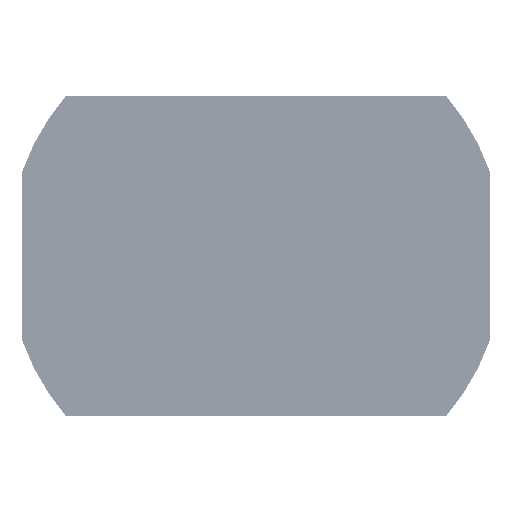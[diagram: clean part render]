
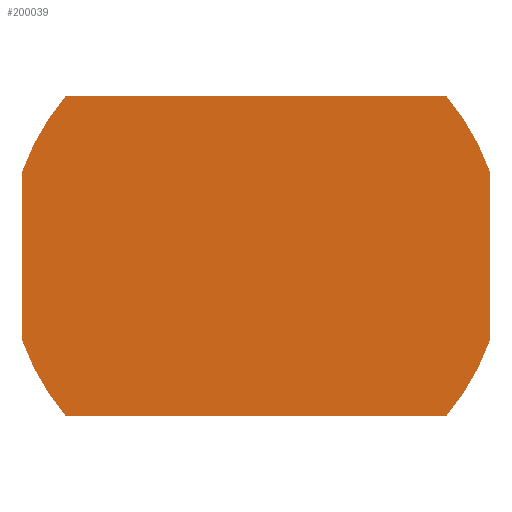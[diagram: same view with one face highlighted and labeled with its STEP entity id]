
A CAD part, top view. The second image highlights one B-rep face of the part: STEP entity #200039.
In plain terms, the highlighted planar face has unit normal (0, 0, 1).
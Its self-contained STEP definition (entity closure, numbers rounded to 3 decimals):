
#199705=CARTESIAN_POINT('Vertex',(0.,50.203,217.76)) ;
#199709=CARTESIAN_POINT('Control Point',(59.55,50.203,217.76)) ;
#199710=CARTESIAN_POINT('Control Point',(47.64,50.203,217.76)) ;
#199711=CARTESIAN_POINT('Control Point',(35.73,50.203,217.76)) ;
#199712=CARTESIAN_POINT('Control Point',(23.82,50.203,217.76)) ;
#199713=CARTESIAN_POINT('Control Point',(11.91,50.203,217.76)) ;
#199714=CARTESIAN_POINT('Control Point',(0.,50.203,217.76)) ;
#199715=CARTESIAN_POINT('Vertex',(59.55,50.203,217.76)) ;
#199945=CARTESIAN_POINT('Axis2P3D Location',(28.259,16.719,217.76)) ;
#199950=CARTESIAN_POINT('Axis2P3D Location',(0.,0.,217.76)) ;
#199954=CARTESIAN_POINT('Vertex',(73.283,26.386,217.76)) ;
#199957=CARTESIAN_POINT('Line Origine',(-29.775,50.203,217.76)) ;
#199961=CARTESIAN_POINT('Vertex',(-59.55,50.203,217.76)) ;
#199964=CARTESIAN_POINT('Axis2P3D Location',(0.,0.,217.76)) ;
#199968=CARTESIAN_POINT('Vertex',(-73.283,26.386,217.76)) ;
#199971=CARTESIAN_POINT('Line Origine',(-73.283,13.193,217.76)) ;
#199975=CARTESIAN_POINT('Vertex',(-73.283,0.,217.76)) ;
#199978=CARTESIAN_POINT('Line Origine',(-73.283,-13.193,217.76)) ;
#199982=CARTESIAN_POINT('Vertex',(-73.283,-26.386,217.76)) ;
#199985=CARTESIAN_POINT('Axis2P3D Location',(0.,0.,217.76)) ;
#199989=CARTESIAN_POINT('Vertex',(-59.55,-50.203,217.76)) ;
#199992=CARTESIAN_POINT('Line Origine',(-29.775,-50.203,217.76)) ;
#199996=CARTESIAN_POINT('Vertex',(0.,-50.203,217.76)) ;
#199999=CARTESIAN_POINT('Line Origine',(29.775,-50.203,217.76)) ;
#200003=CARTESIAN_POINT('Vertex',(59.55,-50.203,217.76)) ;
#200006=CARTESIAN_POINT('Axis2P3D Location',(0.,0.,217.76)) ;
#200010=CARTESIAN_POINT('Vertex',(73.283,-26.386,217.76)) ;
#200013=CARTESIAN_POINT('Line Origine',(73.283,-13.193,217.76)) ;
#200017=CARTESIAN_POINT('Vertex',(73.283,0.,217.76)) ;
#200020=CARTESIAN_POINT('Line Origine',(73.283,13.193,217.76)) ;
#199946=DIRECTION('Axis2P3D Direction',(0.,-0.,-1.)) ;
#199947=DIRECTION('Axis2P3D XDirection',(0.988,-0.153,0.)) ;
#199951=DIRECTION('Axis2P3D Direction',(0.,-0.,-1.)) ;
#199958=DIRECTION('Vector Direction',(-1.,0.,0.)) ;
#199965=DIRECTION('Axis2P3D Direction',(0.,-0.,-1.)) ;
#199972=DIRECTION('Vector Direction',(0.,1.,0.)) ;
#199979=DIRECTION('Vector Direction',(0.,1.,0.)) ;
#199986=DIRECTION('Axis2P3D Direction',(0.,-0.,-1.)) ;
#199993=DIRECTION('Vector Direction',(-1.,0.,0.)) ;
#200000=DIRECTION('Vector Direction',(-1.,0.,0.)) ;
#200007=DIRECTION('Axis2P3D Direction',(0.,-0.,-1.)) ;
#200014=DIRECTION('Vector Direction',(0.,1.,0.)) ;
#200021=DIRECTION('Vector Direction',(0.,1.,0.)) ;
#199948=AXIS2_PLACEMENT_3D('Plane Axis2P3D',#199945,#199946,#199947) ;
#199952=AXIS2_PLACEMENT_3D('Circle Axis2P3D',#199950,#199951,$) ;
#199966=AXIS2_PLACEMENT_3D('Circle Axis2P3D',#199964,#199965,$) ;
#199987=AXIS2_PLACEMENT_3D('Circle Axis2P3D',#199985,#199986,$) ;
#200008=AXIS2_PLACEMENT_3D('Circle Axis2P3D',#200006,#200007,$) ;
#200026=ORIENTED_EDGE('',*,*,#199956,.F.) ;
#200027=ORIENTED_EDGE('',*,*,#199717,.T.) ;
#200028=ORIENTED_EDGE('',*,*,#199963,.F.) ;
#200029=ORIENTED_EDGE('',*,*,#199970,.F.) ;
#200030=ORIENTED_EDGE('',*,*,#199977,.F.) ;
#200031=ORIENTED_EDGE('',*,*,#199984,.T.) ;
#200032=ORIENTED_EDGE('',*,*,#199991,.F.) ;
#200033=ORIENTED_EDGE('',*,*,#199998,.T.) ;
#200034=ORIENTED_EDGE('',*,*,#200005,.F.) ;
#200035=ORIENTED_EDGE('',*,*,#200012,.F.) ;
#200036=ORIENTED_EDGE('',*,*,#200019,.F.) ;
#200037=ORIENTED_EDGE('',*,*,#200024,.T.) ;
#199959=VECTOR('Line Direction',#199958,1.) ;
#199973=VECTOR('Line Direction',#199972,1.) ;
#199980=VECTOR('Line Direction',#199979,1.) ;
#199994=VECTOR('Line Direction',#199993,1.) ;
#200001=VECTOR('Line Direction',#200000,1.) ;
#200015=VECTOR('Line Direction',#200014,1.) ;
#200022=VECTOR('Line Direction',#200021,1.) ;
#200039=ADVANCED_FACE('\X2\51497DDA30C730FC30BF\X0\',(#200038),#199949,.F.) ;
#199708=B_SPLINE_CURVE_WITH_KNOTS('',5,(#199709,#199710,#199711,#199712,#199713,#199714),.UNSPECIFIED.,.F.,.U.,(6,6),(17.892,34.558),.UNSPECIFIED.) ;
#199953=CIRCLE('generated circle',#199952,77.888) ;
#199967=CIRCLE('generated circle',#199966,77.888) ;
#199988=CIRCLE('generated circle',#199987,77.888) ;
#200009=CIRCLE('generated circle',#200008,77.888) ;
#199717=EDGE_CURVE('',#199716,#199706,#199708,.T.) ;
#199956=EDGE_CURVE('',#199716,#199955,#199953,.T.) ;
#199963=EDGE_CURVE('',#199962,#199706,#199960,.F.) ;
#199970=EDGE_CURVE('',#199969,#199962,#199967,.T.) ;
#199977=EDGE_CURVE('',#199976,#199969,#199974,.T.) ;
#199984=EDGE_CURVE('',#199976,#199983,#199981,.F.) ;
#199991=EDGE_CURVE('',#199990,#199983,#199988,.T.) ;
#199998=EDGE_CURVE('',#199990,#199997,#199995,.F.) ;
#200005=EDGE_CURVE('',#200004,#199997,#200002,.T.) ;
#200012=EDGE_CURVE('',#200011,#200004,#200009,.T.) ;
#200019=EDGE_CURVE('',#200018,#200011,#200016,.F.) ;
#200024=EDGE_CURVE('',#200018,#199955,#200023,.T.) ;
#200025=EDGE_LOOP('',(#200026,#200027,#200028,#200029,#200030,#200031,#200032,#200033,#200034,#200035,#200036,#200037)) ;
#200038=FACE_OUTER_BOUND('',#200025,.T.) ;
#199960=LINE('Line',#199957,#199959) ;
#199974=LINE('Line',#199971,#199973) ;
#199981=LINE('Line',#199978,#199980) ;
#199995=LINE('Line',#199992,#199994) ;
#200002=LINE('Line',#199999,#200001) ;
#200016=LINE('Line',#200013,#200015) ;
#200023=LINE('Line',#200020,#200022) ;
#199949=PLANE('',#199948) ;
#199706=VERTEX_POINT('',#199705) ;
#199716=VERTEX_POINT('',#199715) ;
#199955=VERTEX_POINT('',#199954) ;
#199962=VERTEX_POINT('',#199961) ;
#199969=VERTEX_POINT('',#199968) ;
#199976=VERTEX_POINT('',#199975) ;
#199983=VERTEX_POINT('',#199982) ;
#199990=VERTEX_POINT('',#199989) ;
#199997=VERTEX_POINT('',#199996) ;
#200004=VERTEX_POINT('',#200003) ;
#200011=VERTEX_POINT('',#200010) ;
#200018=VERTEX_POINT('',#200017) ;
